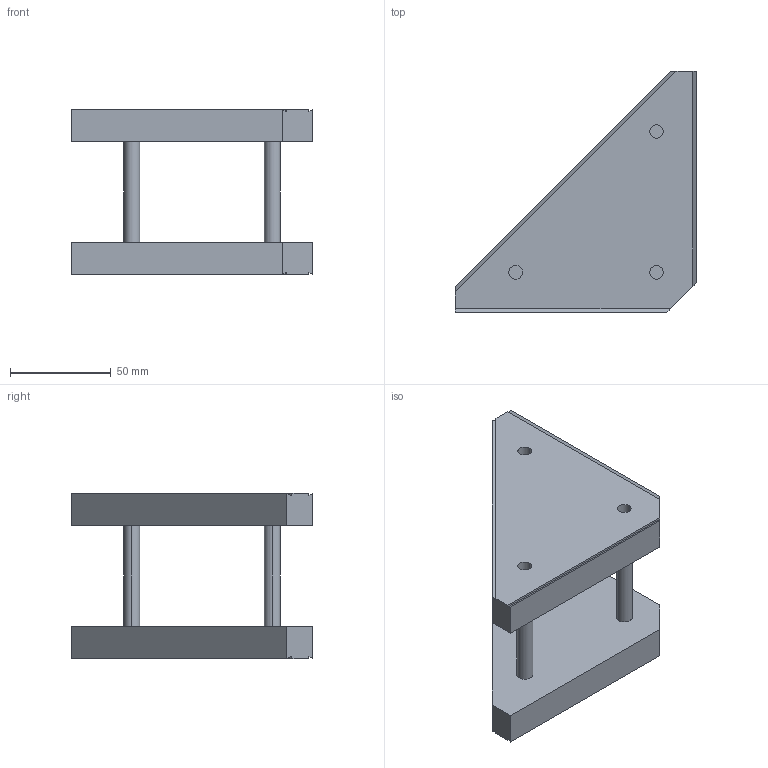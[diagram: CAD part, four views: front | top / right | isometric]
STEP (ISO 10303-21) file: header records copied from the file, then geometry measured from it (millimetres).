
FILE_DESCRIPTION (( 'STEP AP203' ), '1' );
FILE_NAME ('X-Z Verbindung dL120.STEP', '2002-07-08T13:04:15', ( '' ), ( '' ), 'SwSTEP 2.0', 'SolidWorks 2002127', '' );
FILE_SCHEMA (( 'CONFIG_CONTROL_DESIGN' ));
Length unit declared in the file: millimetre
Products named in the file (1): X-Z Verbindung dL120
Bounding box: 120 x 120 x 82.2 mm (x, y, z)
Volume: 279079.1 mm3; surface area: 52842 mm2
Topology: 1 solids, 1 shells, 43 faces, 108 edges, 72 vertices
Faces by surface type: plane 31, cylinder 12
Entity records: 1371 total; most frequent: CARTESIAN_POINT 224, DIRECTION 220, ORIENTED_EDGE 216, EDGE_CURVE 108, LINE 84, VECTOR 84, VERTEX_POINT 72, AXIS2_PLACEMENT_3D 68
